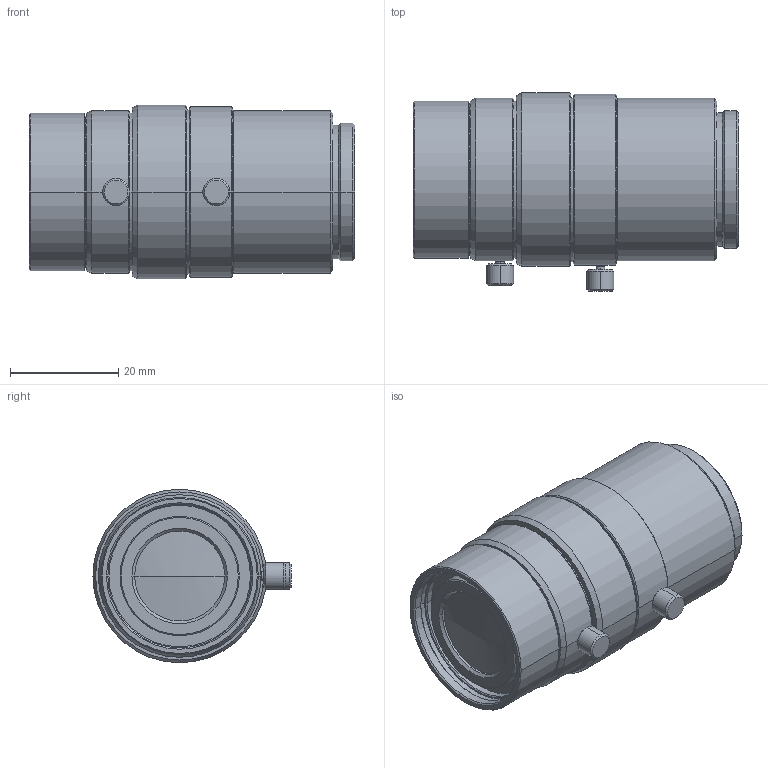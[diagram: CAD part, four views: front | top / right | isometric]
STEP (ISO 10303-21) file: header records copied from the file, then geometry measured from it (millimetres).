
FILE_DESCRIPTION (( 'STEP AP203' ), '1' );
FILE_NAME ('VS-1218H_3CMOS.STEP', '2017-08-04T00:04:05', ( '' ), ( '' ), 'SwSTEP 2.0', 'SolidWorks 2017', '' );
FILE_SCHEMA (( 'CONFIG_CONTROL_DESIGN' ));
Length unit declared in the file: millimetre
Products named in the file (1): VS-1218H_3CMOS
Bounding box: 60 x 36.55 x 32 mm (x, y, z)
Volume: 39887.9 mm3; surface area: 9003.9 mm2
Topology: 1 solids, 1 shells, 127 faces, 258 edges, 150 vertices
Faces by surface type: cone 58, cylinder 46, plane 19, sphere 4
Entity records: 3437 total; most frequent: DIRECTION 650, CARTESIAN_POINT 604, ORIENTED_EDGE 516, AXIS2_PLACEMENT_3D 272, EDGE_CURVE 258, VERTEX_POINT 150, CIRCLE 144, EDGE_LOOP 144
